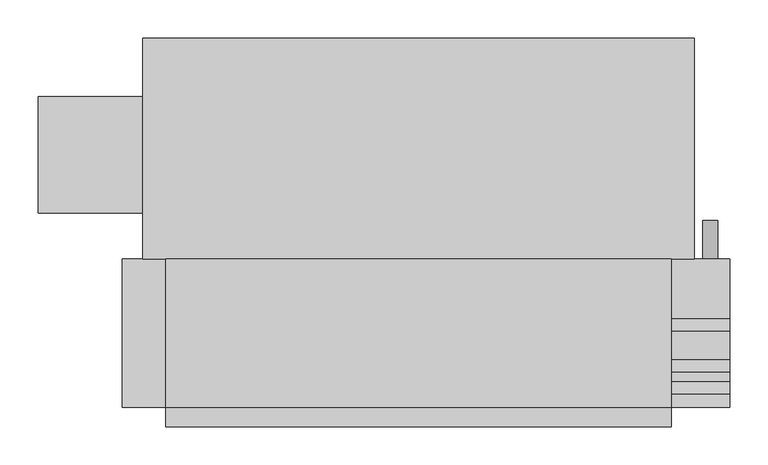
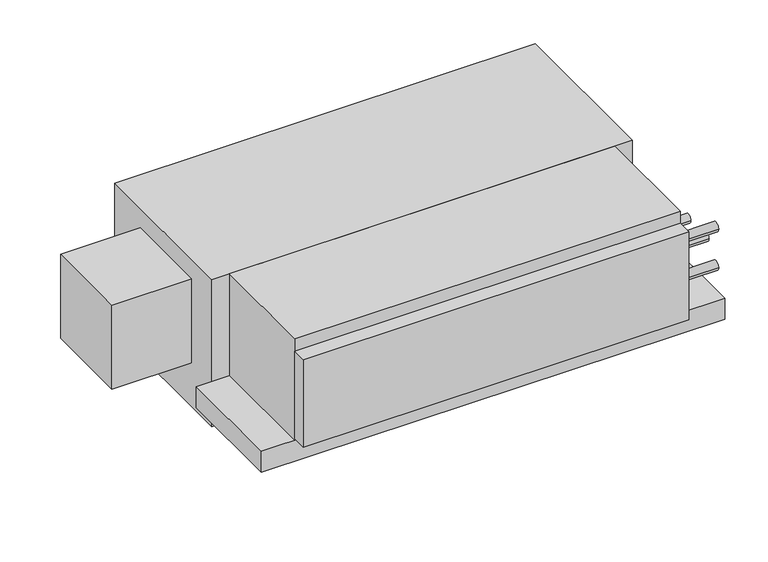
"""IFC4 building model written with IfcOpenShell, lengths in millimetres: proxy geometry, Concealed_Horizontal_Fan_Coil_Unit_With_Plenum_-_42CEA_-_CARRIER_-_4-Pipe_RH_2022 : Size 04 - 277v/60Hz/1Ph - 4/1 Coil."""

from ifc_helpers import new_model, si_unit, point, frame, frame_2d, origin, place, context, project, spatial, polyline, circle_curve, trimmed, segment, composite_curve, outline, extrude, source, transform, mapped, element, save


def mechanical_equipment_8c191ef6(model_context):
    return source(origin(), model_context, "Body", "SweptSolid", [
        extrude(outline(composite_curve([segment(trimmed(circle_curve(frame_2d((-209.55, 533.4)), 9.525), [point((-209.55, 523.875))], [point((-209.55, 542.925))], False, "CARTESIAN"), True, "CONTINUOUS"), segment(trimmed(circle_curve(frame_2d((-209.55, 533.4)), 9.525), [point((-209.55, 542.925))], [point((-209.55, 523.875))], False, "CARTESIAN"), True, "CONTINUOUS")], self_intersect=False)), frame((0.0, -141.2875, 0.0), z_axis=(0.0, 1.0, 0.0), x_axis=(0.0, 0.0, 1.0)), (0.0, 0.0, 1.0), 50.8),
        extrude(outline(composite_curve([segment(trimmed(circle_curve(frame_2d((-309.5625, -69.85)), 7.9375), [point((-317.5, -69.85))], [point((-301.625, -69.85))], False, "CARTESIAN"), True, "CONTINUOUS"), segment(trimmed(circle_curve(frame_2d((-309.5625, -69.85)), 7.9375), [point((-301.625, -69.85))], [point((-317.5, -69.85))], False, "CARTESIAN"), True, "CONTINUOUS")], self_intersect=False)), frame((482.6, 0.0, 0.0), z_axis=(1.0, 0.0, 0.0), x_axis=(0.0, 1.0, 0.0)), (0.0, 0.0, 1.0), 76.2),
        extrude(outline(composite_curve([segment(trimmed(circle_curve(frame_2d((-309.5625, -139.7)), 7.9375), [point((-317.5, -139.7))], [point((-301.625, -139.7))], False, "CARTESIAN"), True, "CONTINUOUS"), segment(trimmed(circle_curve(frame_2d((-309.5625, -139.7)), 7.9375), [point((-301.625, -139.7))], [point((-317.5, -139.7))], False, "CARTESIAN"), True, "CONTINUOUS")], self_intersect=False)), frame((482.6, 0.0, 0.0), z_axis=(1.0, 0.0, 0.0), x_axis=(0.0, 1.0, 0.0)), (0.0, 0.0, 1.0), 76.2),
        extrude(outline(composite_curve([segment(trimmed(circle_curve(frame_2d((-227.0125, -104.775)), 7.9375), [point((-234.95, -104.775))], [point((-219.075, -104.775))], False, "CARTESIAN"), True, "CONTINUOUS"), segment(trimmed(circle_curve(frame_2d((-227.0125, -104.775)), 7.9375), [point((-219.075, -104.775))], [point((-234.95, -104.775))], False, "CARTESIAN"), True, "CONTINUOUS")], self_intersect=False)), frame((482.6, 0.0, 0.0), z_axis=(1.0, 0.0, 0.0), x_axis=(0.0, 1.0, 0.0)), (0.0, 0.0, 1.0), 76.2),
        extrude(outline(composite_curve([segment(trimmed(circle_curve(frame_2d((-280.9875, -104.775)), 7.9375), [point((-288.925, -104.775))], [point((-273.05, -104.775))], False, "CARTESIAN"), True, "CONTINUOUS"), segment(trimmed(circle_curve(frame_2d((-280.9875, -104.775)), 7.9375), [point((-273.05, -104.775))], [point((-288.925, -104.775))], False, "CARTESIAN"), True, "CONTINUOUS")], self_intersect=False)), frame((482.6, 0.0, 0.0), z_axis=(1.0, 0.0, 0.0), x_axis=(0.0, 1.0, 0.0)), (0.0, 0.0, 1.0), 76.2),
        extrude(outline(polyline([(482.6, -334.9625), (482.6, -360.3625), (-177.8, -360.3625), (-177.8, -334.9625), (482.6, -334.9625)])), frame((0.0, 0.0, -180.975), z_axis=(0.0, 0.0, 1.0), x_axis=(1.0, 0.0, 0.0)), (0.0, 0.0, 1.0), 158.75),
        extrude(outline(polyline([(482.6, -334.9625), (-177.8, -334.9625), (-177.8, -141.2875), (482.6, -141.2875), (482.6, -334.9625)])), frame((0.0, 0.0, -184.15), z_axis=(0.0, 0.0, 1.0), x_axis=(1.0, 0.0, 0.0)), (0.0, 0.0, 1.0), 184.15),
        extrude(outline(polyline([(558.8, -141.2875), (558.8, -334.9625), (-234.95, -334.9625), (-234.95, -141.2875), (558.8, -141.2875)])), frame((0.0, 0.0, -222.25), z_axis=(0.0, 0.0, 1.0), x_axis=(1.0, 0.0, 0.0)), (0.0, 0.0, 1.0), 38.1),
        extrude(outline(polyline([(-344.4875, -80.9625), (-344.4875, 71.4375), (-207.9625, 71.4375), (-207.9625, -80.9625), (-344.4875, -80.9625)])), frame((0.0, 0.0, -187.325), z_axis=(0.0, 0.0, 1.0), x_axis=(1.0, 0.0, 0.0)), (0.0, 0.0, 1.0), 152.4),
        extrude(outline(polyline([(-207.9625, 147.6375), (512.7625, 147.6375), (512.7625, -141.2875), (-207.9625, -141.2875), (-207.9625, 147.6375)])), frame((0.0, 0.0, -266.7), z_axis=(0.0, 0.0, 1.0), x_axis=(1.0, 0.0, 0.0)), (0.0, 0.0, 1.0), 266.7),
    ])


if __name__ == "__main__":
    model = new_model("IFC4")
    model_context = context("Model", 3, world=origin())
    ifc_project = project(units=[si_unit("LENGTHUNIT", "METRE", prefix="MILLI")], contexts=[model_context])
    site = spatial("IfcSite", under=ifc_project)
    building = spatial("IfcBuilding", under=site)
    placement = place(None, origin())
    mechanical_equipment_shape = mechanical_equipment_8c191ef6(model_context)
    element("IfcBuildingElementProxy", 1, Name="Concealed_Horizontal_Fan_Coil_Unit_With_Plenum_-_42CEA_-_CARRIER_-_4-Pipe_RH_2022 : Size 04 - 277v/60Hz/1Ph - 4/1 Coil", ObjectType="Concealed_Horizontal_Fan_Coil_Unit_With_Plenum_-_42CEA_-_CARRIER_-_4-Pipe_RH_2022 : Size 04 - 277v/60Hz/1Ph - 4/1 Coil", at=placement, inside=building, context=model_context, shape_type="MappedRepresentation", body=[
        mapped(mechanical_equipment_shape, transform((0.0, 0.0, 0.0), x_axis=(1.0, 0.0, 0.0), y_axis=(0.0, 1.0, 0.0), z_axis=(0.0, 0.0, 1.0))),
    ])
    save(model, "model.ifc")
